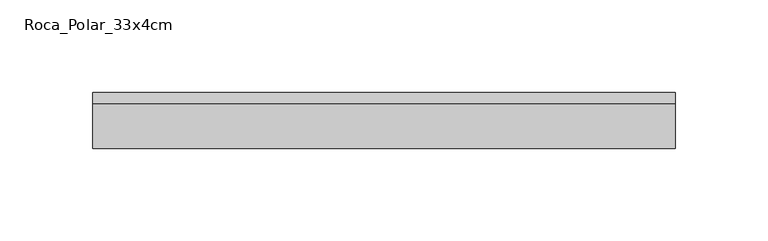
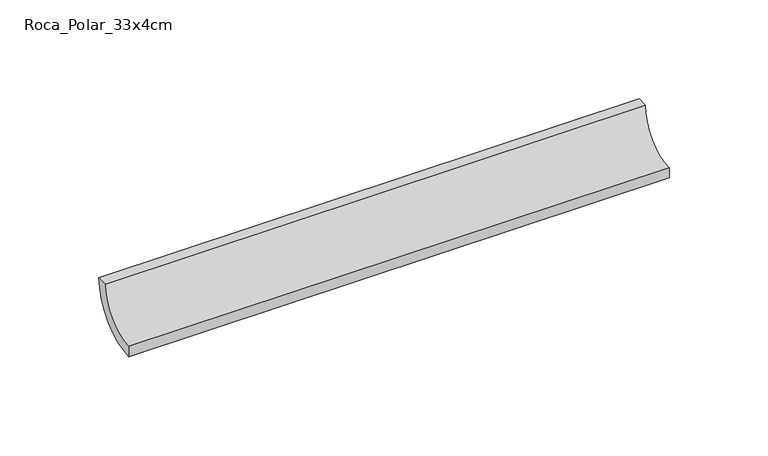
"""IFC4 building model written with IfcOpenShell, lengths in millimetres: proxy geometry, EXAGRES - Half Round Coving : Roca_Polar_33x4cm."""

import ifcopenshell
import ifcopenshell.guid

model = None  # the IFC model being written
_history = None  # IfcOwnerHistory: only IFC2X3 demands one
_inside = {}  # id of a spatial element -> (the spatial element, [elements in it])
_under = {}  # id of a project, library or spatial element -> (it, [spatial elements below it])
_declared = {}  # id of a project -> (the project, [libraries it declares])
_typed = {}  # id of a type object -> (the type object, [elements of that type])
_made_of = {}  # id of a material, layer set ... -> (it, [elements and type objects made of it])


def new_model(schema):
    """Start an empty IFC model of exactly this schema.

    Asked for "IFC4X3", IfcOpenShell would pick the latest addendum, in which some entities
    have other attributes; the version numbers below select the first issue.
    IFC2X3 requires an IfcOwnerHistory on every rooted entity: one is made here for all.
    """
    global model, _history
    if schema == "IFC4X3":
        model = ifcopenshell.file(schema_version=(4, 3, 0, 0))
    else:
        model = ifcopenshell.file(schema=schema)
    _inside.clear()
    _under.clear()
    _declared.clear()
    _typed.clear()
    _made_of.clear()
    _history = None
    if model.schema == "IFC2X3":
        org = make("IfcOrganization", Name="unknown")
        user = make(
            "IfcPersonAndOrganization",
            ThePerson=make("IfcPerson", FamilyName="unknown"),
            TheOrganization=org,
        )
        app = make(
            "IfcApplication",
            ApplicationDeveloper=org,
            Version="unknown",
            ApplicationFullName="unknown",
            ApplicationIdentifier="unknown",
        )
        _history = make(
            "IfcOwnerHistory",
            OwningUser=user,
            OwningApplication=app,
            ChangeAction="ADDED",
            CreationDate=0,
        )
    return model


def make(cls, **values):
    """One entity of the class cls with the attributes given. An attribute that is None is left unset."""
    return model.create_entity(
        cls, **{name: value for name, value in values.items() if value is not None}
    )


def rooted(cls, **values):
    """An entity with a GlobalId (a new one), such as an element, a storey or a relation."""
    return make(cls, GlobalId=ifcopenshell.guid.new(), OwnerHistory=_history, **values)


def si_unit(unit_type, name, prefix=None):
    """IfcSIUnit, for example si_unit("LENGTHUNIT", "METRE", prefix="MILLI")."""
    return make("IfcSIUnit", UnitType=unit_type, Prefix=prefix, Name=name)


def assignment(units):
    """IfcUnitAssignment: the units of a project."""
    return None if units is None else make("IfcUnitAssignment", Units=units)


def point(xyz):
    """IfcCartesianPoint."""
    return None if xyz is None else make("IfcCartesianPoint", Coordinates=xyz)


def direction(xyz):
    """IfcDirection."""
    return None if xyz is None else make("IfcDirection", DirectionRatios=xyz)


def frame(location, z_axis=None, x_axis=None):
    """IfcAxis2Placement3D, a coordinate frame: its origin and axes. An axis left out is left unset."""
    return make(
        "IfcAxis2Placement3D",
        Location=point(location),
        Axis=direction(z_axis),
        RefDirection=direction(x_axis),
    )


def frame_2d(location, x_axis=None):
    """IfcAxis2Placement2D, a coordinate frame in the plane: its origin and x axis."""
    return make(
        "IfcAxis2Placement2D", Location=point(location), RefDirection=direction(x_axis)
    )


def origin():
    """The frame at (0, 0, 0) with its axes left unset."""
    return frame((0.0, 0.0, 0.0))


def place(relative_to, where):
    """IfcLocalPlacement: puts the frame where relative to a parent placement (None: the world)."""
    return make(
        "IfcLocalPlacement", PlacementRelTo=relative_to, RelativePlacement=where
    )


def context(
    kind, dimensions, precision=None, world=None, true_north=None, identifier=None
):
    """IfcGeometricRepresentationContext, for example the 3D "Model" context."""
    return make(
        "IfcGeometricRepresentationContext",
        ContextIdentifier=identifier,
        ContextType=kind,
        CoordinateSpaceDimension=dimensions,
        Precision=precision,
        WorldCoordinateSystem=world,
        TrueNorth=true_north,
    )


def project(units=None, contexts=None):
    """IfcProject with its units and contexts."""
    return rooted(
        "IfcProject",
        Name="project",
        RepresentationContexts=contexts,
        UnitsInContext=assignment(units),
    )


def spatial(cls, under=None, at=None, **own):
    """A site, building, storey or space (cls), placed at a placement, below another one or the project."""
    s = rooted(cls, ObjectPlacement=at, **own)
    if under is not None:
        _under.setdefault(under.id(), (under, []))[1].append(s)
    return s


def polyline(points):
    """IfcPolyline through the points."""
    return make("IfcPolyline", Points=[point(p) for p in points])


def circle_curve(where, radius):
    """IfcCircle in the frame where."""
    return make("IfcCircle", Position=where, Radius=radius)


def trimmed(basis, trim1, trim2, sense, master):
    """IfcTrimmedCurve: the piece of a basis curve between two trims."""
    return make(
        "IfcTrimmedCurve",
        BasisCurve=basis,
        Trim1=trim1,
        Trim2=trim2,
        SenseAgreement=sense,
        MasterRepresentation=master,
    )


def segment(curve, same_sense, transition):
    """IfcCompositeCurveSegment."""
    return make(
        "IfcCompositeCurveSegment",
        Transition=transition,
        SameSense=same_sense,
        ParentCurve=curve,
    )


def composite_curve(segments, self_intersect=None):
    """IfcCompositeCurve: segments joined end to end."""
    return make("IfcCompositeCurve", Segments=segments, SelfIntersect=self_intersect)


def outline(outer, holes=None, kind="AREA"):
    """IfcArbitraryClosedProfileDef: a profile drawn as a closed curve; with holes, ...WithVoids."""
    if holes is None:
        return make("IfcArbitraryClosedProfileDef", ProfileType=kind, OuterCurve=outer)
    return make(
        "IfcArbitraryProfileDefWithVoids",
        ProfileType=kind,
        OuterCurve=outer,
        InnerCurves=holes,
    )


def extrude(swept, where, along, depth):
    """IfcExtrudedAreaSolid: the profile swept, set in the frame where, extruded along a direction by depth."""
    return make(
        "IfcExtrudedAreaSolid",
        SweptArea=swept,
        Position=where,
        ExtrudedDirection=direction(along),
        Depth=depth,
    )


def shape(context_of_items, identifier, shape_type, items):
    """IfcShapeRepresentation: the items that make up one representation, for example the "Body"."""
    return make(
        "IfcShapeRepresentation",
        ContextOfItems=context_of_items,
        RepresentationIdentifier=identifier,
        RepresentationType=shape_type,
        Items=items,
    )


def source(mapping_origin, context_of_items, identifier, shape_type, items):
    """IfcRepresentationMap: a shape defined once, which mapped items show again and again."""
    return make(
        "IfcRepresentationMap",
        MappingOrigin=mapping_origin,
        MappedRepresentation=shape(context_of_items, identifier, shape_type, items),
    )


def transform(
    local_origin,
    x_axis=None,
    y_axis=None,
    z_axis=None,
    scale=None,
    scale2=None,
    scale3=None,
    uniform=True,
):
    """IfcCartesianTransformationOperator3D, or its non-uniform kind. x_axis, y_axis, z_axis: its Axis1, 2, 3."""
    if uniform:
        return make(
            "IfcCartesianTransformationOperator3D",
            Axis1=direction(x_axis),
            Axis2=direction(y_axis),
            LocalOrigin=point(local_origin),
            Scale=scale,
            Axis3=direction(z_axis),
        )
    return make(
        "IfcCartesianTransformationOperator3DnonUniform",
        Axis1=direction(x_axis),
        Axis2=direction(y_axis),
        LocalOrigin=point(local_origin),
        Scale=scale,
        Axis3=direction(z_axis),
        Scale2=scale2,
        Scale3=scale3,
    )


def mapped(mapping_source, mapping_target):
    """IfcMappedItem: shows the shape of a source again, moved by a transform."""
    return make(
        "IfcMappedItem", MappingSource=mapping_source, MappingTarget=mapping_target
    )


def made_of(thing, what):
    """Note that an element or type object is made of a material, layer set ...; save() writes the relation."""
    if what is not None:
        _made_of.setdefault(what.id(), (what, []))[1].append(thing)
    return thing


def element(
    cls,
    number,
    at=None,
    inside=None,
    cuts=None,
    type_object=None,
    material=None,
    context=None,
    identifier="Body",
    shape_type=None,
    held_by="IfcProductDefinitionShape",
    body=None,
    shapes=None,
    **own,
):
    """One element of the class cls, such as IfcWall. Its Tag is "e" and its number.

    at: its placement. inside: the storey or other place that contains it. cuts: it is an
    opening in that element (IfcRelVoidsElement). A single representation is given by context,
    identifier, shape_type and body (its items); several are given by shapes. held_by: the class
    of the entity that holds the representations. save() writes the other relations.
    """
    e = rooted(cls, Tag="e%d" % number, ObjectPlacement=at, **own)
    if body is not None:
        shapes = [shape(context, identifier, shape_type, body)]
    if shapes is not None:
        e.Representation = make(held_by, Representations=shapes)
    if inside is not None:
        _inside.setdefault(inside.id(), (inside, []))[1].append(e)
    if cuts is not None:
        rooted(
            "IfcRelVoidsElement", RelatingBuildingElement=cuts, RelatedOpeningElement=e
        )
    if type_object is not None:
        _typed.setdefault(type_object.id(), (type_object, []))[1].append(e)
    return made_of(e, material)


def aggregate(whole, parts):
    """IfcRelAggregates: a whole, such as a stair, and the parts it consists of."""
    return rooted("IfcRelAggregates", RelatingObject=whole, RelatedObjects=parts)


def save(model, path):
    """Write the relations noted so far, then the file.

    IfcRelAggregates (storeys below a building ...), IfcRelContainedInSpatialStructure (elements
    in a storey), IfcRelDefinesByType, IfcRelAssociatesMaterial and IfcRelDeclares: one each for
    every whole, place, type object, material and project.
    """
    for whole, parts in _under.values():
        aggregate(whole, parts)
    for where, things in _inside.values():
        rooted(
            "IfcRelContainedInSpatialStructure",
            RelatedElements=things,
            RelatingStructure=where,
        )
    for kind, things in _typed.values():
        rooted("IfcRelDefinesByType", RelatedObjects=things, RelatingType=kind)
    for what, things in _made_of.values():
        rooted("IfcRelAssociatesMaterial", RelatedObjects=things, RelatingMaterial=what)
    for by, libraries in _declared.values():
        rooted("IfcRelDeclares", RelatingContext=by, RelatedDefinitions=libraries)
    model.write(path)


def roca_polar_33x4cm_2db79b40(model_context):
    return source(origin(), model_context, "Body", "SweptSolid", [
        extrude(outline(composite_curve([segment(polyline([(0.0, 23.9), (6.4, 23.9)]), True, "CONTINUOUS"), segment(trimmed(circle_curve(frame_2d((-23.9, 23.9)), 30.3), [point((6.4, 23.9))], [point((-23.9, -6.4))], False, "CARTESIAN"), True, "CONTINUOUS"), segment(polyline([(-23.9, -6.4), (-23.9, 0.0)]), True, "CONTINUOUS"), segment(trimmed(circle_curve(frame_2d((-23.9, 23.9)), 23.9), [point((-23.9, 0.0))], [point((0.0, 23.9))], True, "CARTESIAN"), True, "CONTINUOUS")], self_intersect=False)), frame((0.0, 0.0, 0.0), z_axis=(1.0, 0.0, 0.0), x_axis=(0.0, 1.0, 0.0)), (0.0, 0.0, 1.0), 315.0),
    ])


if __name__ == "__main__":
    model = new_model("IFC4")
    model_context = context("Model", 3, world=origin())
    ifc_project = project(units=[si_unit("LENGTHUNIT", "METRE", prefix="MILLI")], contexts=[model_context])
    site = spatial("IfcSite", under=ifc_project)
    building = spatial("IfcBuilding", under=site)
    placement = place(None, origin())
    roca_polar_33x4cm_shape = roca_polar_33x4cm_2db79b40(model_context)
    element("IfcBuildingElementProxy", 1, Name="EXAGRES - Half Round Coving : Roca_Polar_33x4cm", ObjectType="EXAGRES - Half Round Coving : Roca_Polar_33x4cm", at=placement, inside=building, context=model_context, shape_type="MappedRepresentation", body=[
        mapped(roca_polar_33x4cm_shape, transform((0.0, 0.0, 0.0), x_axis=(1.0, 0.0, 0.0), y_axis=(0.0, 1.0, 0.0), z_axis=(0.0, 0.0, 1.0))),
    ])
    save(model, "model.ifc")
